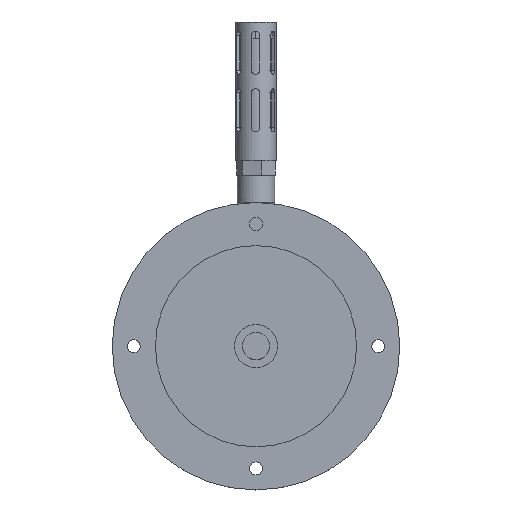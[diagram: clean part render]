
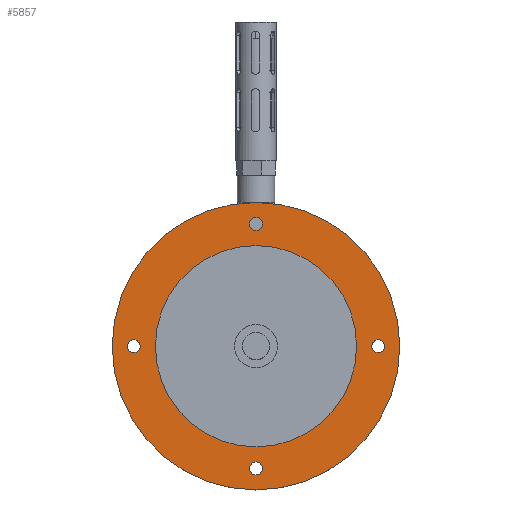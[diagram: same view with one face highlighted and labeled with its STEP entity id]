
A CAD part, top view. The second image highlights one B-rep face of the part: STEP entity #5857.
In plain terms, the highlighted planar face has unit normal (0, 0, 1).
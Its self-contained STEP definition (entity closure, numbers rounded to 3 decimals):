
#90 = ORIENTED_EDGE ( 'NONE', *, *, #755, .T. ) ;
#113 = DIRECTION ( 'NONE',  ( 0., 0., -1. ) ) ;
#173 = EDGE_CURVE ( 'NONE', #14349, #11801, #13280, .T. ) ;
#354 = AXIS2_PLACEMENT_3D ( 'NONE', #14736, #3292, #11386 ) ;
#527 = FACE_BOUND ( 'NONE', #8236, .T. ) ;
#590 = CIRCLE ( 'NONE', #2334, 4.5 ) ;
#599 = ORIENTED_EDGE ( 'NONE', *, *, #12744, .T. ) ;
#688 = CIRCLE ( 'NONE', #1342, 4.5 ) ;
#755 = EDGE_CURVE ( 'NONE', #3289, #4304, #14675, .T. ) ;
#864 = EDGE_CURVE ( 'NONE', #4304, #3289, #590, .T. ) ;
#1023 = ORIENTED_EDGE ( 'NONE', *, *, #6638, .T. ) ;
#1184 = EDGE_CURVE ( 'NONE', #8764, #14368, #10881, .T. ) ;
#1260 = CARTESIAN_POINT ( 'NONE',  ( 0., 0., 196. ) ) ;
#1342 = AXIS2_PLACEMENT_3D ( 'NONE', #9472, #2556, #10634 ) ;
#1871 = VERTEX_POINT ( 'NONE', #14622 ) ;
#1892 = ORIENTED_EDGE ( 'NONE', *, *, #13026, .T. ) ;
#2042 = AXIS2_PLACEMENT_3D ( 'NONE', #1260, #9332, #2413 ) ;
#2089 = CARTESIAN_POINT ( 'NONE',  ( -70., 0., 196. ) ) ;
#2134 = PLANE ( 'NONE',  #354 ) ;
#2334 = AXIS2_PLACEMENT_3D ( 'NONE', #10445, #3510, #11600 ) ;
#2333 = DIRECTION ( 'NONE',  ( 0., 0., 1. ) ) ;
#2413 = DIRECTION ( 'NONE',  ( 1., 0., 0. ) ) ;
#2461 = CARTESIAN_POINT ( 'NONE',  ( 80.5, 0., 196. ) ) ;
#2556 = DIRECTION ( 'NONE',  ( 0., 0., -1. ) ) ;
#2679 = ORIENTED_EDGE ( 'NONE', *, *, #9550, .T. ) ;
#2744 = ORIENTED_EDGE ( 'NONE', *, *, #864, .T. ) ;
#2749 = DIRECTION ( 'NONE',  ( 0., 0., 1. ) ) ;
#2850 = CARTESIAN_POINT ( 'NONE',  ( 0., -85., 196. ) ) ;
#3154 = EDGE_LOOP ( 'NONE', ( #599, #1892 ) ) ;
#3289 = VERTEX_POINT ( 'NONE', #8012 ) ;
#3292 = DIRECTION ( 'NONE',  ( 0., 0., 1. ) ) ;
#3464 = EDGE_CURVE ( 'NONE', #5272, #9353, #688, .T. ) ;
#3510 = DIRECTION ( 'NONE',  ( 0., 0., -1. ) ) ;
#3563 = CIRCLE ( 'NONE', #4263, 4.5 ) ;
#3806 = CARTESIAN_POINT ( 'NONE',  ( 85., 0., 196. ) ) ;
#3932 = EDGE_LOOP ( 'NONE', ( #1023, #7189 ) ) ;
#4022 = DIRECTION ( 'NONE',  ( 0., 1., 0. ) ) ;
#4263 = AXIS2_PLACEMENT_3D ( 'NONE', #5158, #13256, #6299 ) ;
#4300 = DIRECTION ( 'NONE',  ( 0., 0., 1. ) ) ;
#4304 = VERTEX_POINT ( 'NONE', #14418 ) ;
#4370 = CIRCLE ( 'NONE', #6459, 4.5 ) ;
#4731 = EDGE_CURVE ( 'NONE', #12827, #10991, #10142, .T. ) ;
#4963 = DIRECTION ( 'NONE',  ( -1., 0., 0. ) ) ;
#5158 = CARTESIAN_POINT ( 'NONE',  ( 85., 0., 196. ) ) ;
#5178 = DIRECTION ( 'NONE',  ( 0., 0., -1. ) ) ;
#5180 = CARTESIAN_POINT ( 'NONE',  ( 4.5, -85., 196. ) ) ;
#5195 = ORIENTED_EDGE ( 'NONE', *, *, #1184, .T. ) ;
#5272 = VERTEX_POINT ( 'NONE', #5180 ) ;
#5290 = AXIS2_PLACEMENT_3D ( 'NONE', #12107, #5178, #13279 ) ;
#5656 = VERTEX_POINT ( 'NONE', #2461 ) ;
#5857 = ADVANCED_FACE ( 'NONE', ( #9742, #12458, #12829, #6654, #527, #9398 ), #2134, .T. ) ;
#5979 = CARTESIAN_POINT ( 'NONE',  ( 100., 0., 196. ) ) ;
#6299 = DIRECTION ( 'NONE',  ( -1., 0., 0. ) ) ;
#6405 = EDGE_LOOP ( 'NONE', ( #2679, #5195 ) ) ;
#6459 = AXIS2_PLACEMENT_3D ( 'NONE', #7026, #113, #8212 ) ;
#6638 = EDGE_CURVE ( 'NONE', #9353, #5272, #10988, .T. ) ;
#6654 = FACE_BOUND ( 'NONE', #3154, .T. ) ;
#6888 = DIRECTION ( 'NONE',  ( 0., 0., -1. ) ) ;
#7026 = CARTESIAN_POINT ( 'NONE',  ( -85., 0., 196. ) ) ;
#7189 = ORIENTED_EDGE ( 'NONE', *, *, #3464, .T. ) ;
#7217 = EDGE_CURVE ( 'NONE', #10991, #12827, #9526, .T. ) ;
#8012 = CARTESIAN_POINT ( 'NONE',  ( -4.5, 85., 196. ) ) ;
#8212 = DIRECTION ( 'NONE',  ( 1., 0., 0. ) ) ;
#8236 = EDGE_LOOP ( 'NONE', ( #14669, #9111 ) ) ;
#8385 = CARTESIAN_POINT ( 'NONE',  ( -80.5, 0., 196. ) ) ;
#8744 = CARTESIAN_POINT ( 'NONE',  ( -4.5, -85., 196. ) ) ;
#8764 = VERTEX_POINT ( 'NONE', #5979 ) ;
#9076 = EDGE_CURVE ( 'NONE', #11801, #14349, #4370, .T. ) ;
#9111 = ORIENTED_EDGE ( 'NONE', *, *, #7217, .F. ) ;
#9254 = CARTESIAN_POINT ( 'NONE',  ( 0., 0., 196. ) ) ;
#9332 = DIRECTION ( 'NONE',  ( 0., 0., 1. ) ) ;
#9353 = VERTEX_POINT ( 'NONE', #8744 ) ;
#9398 = FACE_OUTER_BOUND ( 'NONE', #6405, .T. ) ;
#9472 = CARTESIAN_POINT ( 'NONE',  ( 0., -85., 196. ) ) ;
#9526 = CIRCLE ( 'NONE', #11606, 70. ) ;
#9550 = EDGE_CURVE ( 'NONE', #14368, #8764, #14814, .T. ) ;
#9673 = CARTESIAN_POINT ( 'NONE',  ( 0., 0., 196. ) ) ;
#9742 = FACE_BOUND ( 'NONE', #13650, .T. ) ;
#9777 = CARTESIAN_POINT ( 'NONE',  ( 70., 0., 196. ) ) ;
#10142 = CIRCLE ( 'NONE', #11794, 70. ) ;
#10287 = CARTESIAN_POINT ( 'NONE',  ( -89.5, 0., 196. ) ) ;
#10374 = AXIS2_PLACEMENT_3D ( 'NONE', #13846, #6888, #14964 ) ;
#10421 = DIRECTION ( 'NONE',  ( 1., 0., 0. ) ) ;
#10445 = CARTESIAN_POINT ( 'NONE',  ( 0., 85., 196. ) ) ;
#10634 = DIRECTION ( 'NONE',  ( 0., 1., 0. ) ) ;
#10761 = EDGE_LOOP ( 'NONE', ( #14370, #12469 ) ) ;
#10844 = DIRECTION ( 'NONE',  ( 1., 0., 0. ) ) ;
#10881 = CIRCLE ( 'NONE', #2042, 100. ) ;
#10945 = DIRECTION ( 'NONE',  ( 0., 0., -1. ) ) ;
#10988 = CIRCLE ( 'NONE', #12945, 4.5 ) ;
#10991 = VERTEX_POINT ( 'NONE', #9777 ) ;
#11226 = CARTESIAN_POINT ( 'NONE',  ( 0., 0., 196. ) ) ;
#11386 = DIRECTION ( 'NONE',  ( 1., 0., 0. ) ) ;
#11517 = CIRCLE ( 'NONE', #13273, 4.5 ) ;
#11600 = DIRECTION ( 'NONE',  ( 0., -1., 0. ) ) ;
#11606 = AXIS2_PLACEMENT_3D ( 'NONE', #11226, #4300, #12378 ) ;
#11794 = AXIS2_PLACEMENT_3D ( 'NONE', #9673, #2749, #10844 ) ;
#11801 = VERTEX_POINT ( 'NONE', #10287 ) ;
#11870 = DIRECTION ( 'NONE',  ( 0., 0., -1. ) ) ;
#12107 = CARTESIAN_POINT ( 'NONE',  ( -85., 0., 196. ) ) ;
#12378 = DIRECTION ( 'NONE',  ( 1., 0., 0. ) ) ;
#12458 = FACE_BOUND ( 'NONE', #10761, .T. ) ;
#12469 = ORIENTED_EDGE ( 'NONE', *, *, #173, .T. ) ;
#12744 = EDGE_CURVE ( 'NONE', #5656, #1871, #3563, .T. ) ;
#12827 = VERTEX_POINT ( 'NONE', #2089 ) ;
#12829 = FACE_BOUND ( 'NONE', #3932, .T. ) ;
#12945 = AXIS2_PLACEMENT_3D ( 'NONE', #2850, #10945, #4022 ) ;
#13026 = EDGE_CURVE ( 'NONE', #1871, #5656, #11517, .T. ) ;
#13032 = CARTESIAN_POINT ( 'NONE',  ( -100., 0., 196. ) ) ;
#13256 = DIRECTION ( 'NONE',  ( 0., 0., -1. ) ) ;
#13273 = AXIS2_PLACEMENT_3D ( 'NONE', #3806, #11870, #4963 ) ;
#13279 = DIRECTION ( 'NONE',  ( 1., 0., 0. ) ) ;
#13280 = CIRCLE ( 'NONE', #5290, 4.5 ) ;
#13650 = EDGE_LOOP ( 'NONE', ( #90, #2744 ) ) ;
#13846 = CARTESIAN_POINT ( 'NONE',  ( 0., 85., 196. ) ) ;
#14349 = VERTEX_POINT ( 'NONE', #8385 ) ;
#14368 = VERTEX_POINT ( 'NONE', #13032 ) ;
#14370 = ORIENTED_EDGE ( 'NONE', *, *, #9076, .T. ) ;
#14418 = CARTESIAN_POINT ( 'NONE',  ( 4.5, 85., 196. ) ) ;
#14622 = CARTESIAN_POINT ( 'NONE',  ( 89.5, 0., 196. ) ) ;
#14669 = ORIENTED_EDGE ( 'NONE', *, *, #4731, .F. ) ;
#14675 = CIRCLE ( 'NONE', #10374, 4.5 ) ;
#14736 = CARTESIAN_POINT ( 'NONE',  ( 0., 0., 196. ) ) ;
#14782 = AXIS2_PLACEMENT_3D ( 'NONE', #9254, #2333, #10421 ) ;
#14814 = CIRCLE ( 'NONE', #14782, 100. ) ;
#14964 = DIRECTION ( 'NONE',  ( 0., -1., 0. ) ) ;
